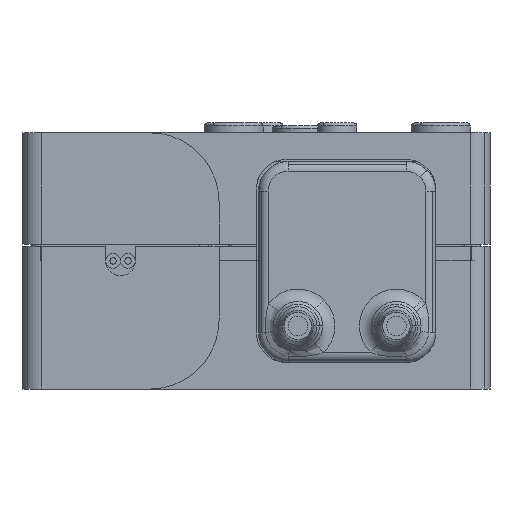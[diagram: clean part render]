
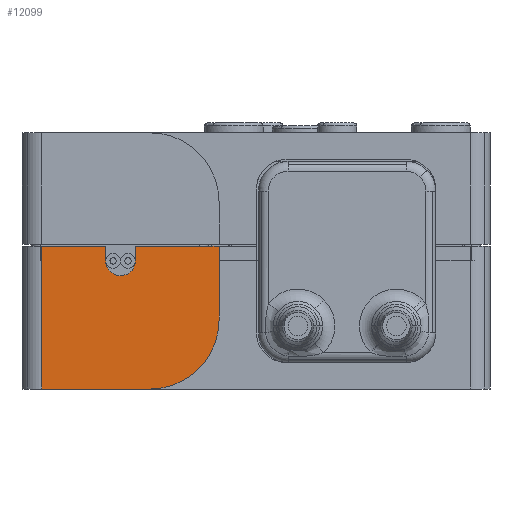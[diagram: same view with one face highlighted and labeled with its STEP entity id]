
A CAD part, front view. The second image highlights one B-rep face of the part: STEP entity #12099.
In plain terms, the highlighted planar face has unit normal (0, -1, 0).
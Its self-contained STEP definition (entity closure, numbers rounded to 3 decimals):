
#25 = DIRECTION ( 'NONE',  ( 0., -1., 0. ) ) ;
#155 = ORIENTED_EDGE ( 'NONE', *, *, #887, .T. ) ;
#484 = EDGE_CURVE ( 'NONE', #16605, #7866, #2389, .T. ) ;
#564 = LINE ( 'NONE', #13488, #8350 ) ;
#722 = ORIENTED_EDGE ( 'NONE', *, *, #11151, .F. ) ;
#887 = EDGE_CURVE ( 'NONE', #9692, #10093, #6363, .T. ) ;
#972 = CARTESIAN_POINT ( 'NONE',  ( -17., -55., 7.25 ) ) ;
#1206 = ORIENTED_EDGE ( 'NONE', *, *, #15548, .F. ) ;
#1638 = CARTESIAN_POINT ( 'NONE',  ( -8.5, -55., 7. ) ) ;
#1711 = CARTESIAN_POINT ( 'NONE',  ( -15.5, -55., 7. ) ) ;
#1785 = AXIS2_PLACEMENT_3D ( 'NONE', #5365, #15685, #14169 ) ;
#1835 = FACE_OUTER_BOUND ( 'NONE', #12713, .T. ) ;
#1878 = DIRECTION ( 'NONE',  ( -0.707, 0., -0.707 ) ) ;
#2247 = LINE ( 'NONE', #972, #13478 ) ;
#2326 = CARTESIAN_POINT ( 'NONE',  ( -17., -55., 13. ) ) ;
#2331 = VECTOR ( 'NONE', #8394, 1000. ) ;
#2389 = LINE ( 'NONE', #7584, #7702 ) ;
#2417 = AXIS2_PLACEMENT_3D ( 'NONE', #12588, #4626, #1878 ) ;
#2448 = EDGE_CURVE ( 'NONE', #3719, #7866, #564, .T. ) ;
#2607 = CARTESIAN_POINT ( 'NONE',  ( -18.5, -55., 13. ) ) ;
#2736 = CARTESIAN_POINT ( 'NONE',  ( -20., -55., 13. ) ) ;
#3341 = LINE ( 'NONE', #16238, #8082 ) ;
#3719 = VERTEX_POINT ( 'NONE', #1638 ) ;
#3761 = CARTESIAN_POINT ( 'NONE',  ( -20., -55., 14.5 ) ) ;
#3851 = DIRECTION ( 'NONE',  ( 1., 0., 0. ) ) ;
#3865 = CIRCLE ( 'NONE', #13339, 7. ) ;
#3921 = VECTOR ( 'NONE', #5351, 1000. ) ;
#4302 = ORIENTED_EDGE ( 'NONE', *, *, #2448, .T. ) ;
#4549 = AXIS2_PLACEMENT_3D ( 'NONE', #2607, #25, #10417 ) ;
#4609 = CARTESIAN_POINT ( 'NONE',  ( -10.55, -55., 2.05 ) ) ;
#4626 = DIRECTION ( 'NONE',  ( 0., -1., 0. ) ) ;
#4858 = CARTESIAN_POINT ( 'NONE',  ( -15.5, -55., 0. ) ) ;
#5066 = CARTESIAN_POINT ( 'NONE',  ( -28.5, -55., 14.5 ) ) ;
#5351 = DIRECTION ( 'NONE',  ( 0., 0., 1. ) ) ;
#5365 = CARTESIAN_POINT ( 'NONE',  ( -15.5, -55., 7. ) ) ;
#6029 = VERTEX_POINT ( 'NONE', #13832 ) ;
#6363 = LINE ( 'NONE', #15674, #3921 ) ;
#6591 = EDGE_CURVE ( 'NONE', #14478, #10287, #3865, .T. ) ;
#6924 = DIRECTION ( 'NONE',  ( 0., 1., 0. ) ) ;
#7037 = DIRECTION ( 'NONE',  ( 0.707, 0., 0.707 ) ) ;
#7374 = DIRECTION ( 'NONE',  ( 0., 0., 1. ) ) ;
#7391 = VERTEX_POINT ( 'NONE', #10722 ) ;
#7584 = CARTESIAN_POINT ( 'NONE',  ( -28.5, -55., 14.5 ) ) ;
#7702 = VECTOR ( 'NONE', #3851, 1000. ) ;
#7866 = VERTEX_POINT ( 'NONE', #16512 ) ;
#8082 = VECTOR ( 'NONE', #8532, 1000. ) ;
#8310 = LINE ( 'NONE', #8475, #2331 ) ;
#8350 = VECTOR ( 'NONE', #7374, 1000. ) ;
#8394 = DIRECTION ( 'NONE',  ( -1., 0., 0. ) ) ;
#8396 = DIRECTION ( 'NONE',  ( 0., -1., 0. ) ) ;
#8475 = CARTESIAN_POINT ( 'NONE',  ( -8.5, -55., 0. ) ) ;
#8532 = DIRECTION ( 'NONE',  ( 0., 0., 1. ) ) ;
#8605 = ORIENTED_EDGE ( 'NONE', *, *, #11072, .T. ) ;
#8689 = CARTESIAN_POINT ( 'NONE',  ( -26.5, -55., 14.5 ) ) ;
#9217 = CIRCLE ( 'NONE', #2417, 1.5 ) ;
#9543 = EDGE_CURVE ( 'NONE', #14233, #10093, #15091, .T. ) ;
#9573 = CARTESIAN_POINT ( 'NONE',  ( -28.5, -55., 0. ) ) ;
#9692 = VERTEX_POINT ( 'NONE', #2736 ) ;
#10093 = VERTEX_POINT ( 'NONE', #3761 ) ;
#10287 = VERTEX_POINT ( 'NONE', #4858 ) ;
#10363 = ORIENTED_EDGE ( 'NONE', *, *, #10610, .F. ) ;
#10417 = DIRECTION ( 'NONE',  ( -0.707, 0., -0.707 ) ) ;
#10434 = EDGE_CURVE ( 'NONE', #3719, #14478, #12100, .T. ) ;
#10504 = CIRCLE ( 'NONE', #4549, 1.5 ) ;
#10610 = EDGE_CURVE ( 'NONE', #10287, #7391, #8310, .T. ) ;
#10722 = CARTESIAN_POINT ( 'NONE',  ( -26.5, -55., 0. ) ) ;
#11072 = EDGE_CURVE ( 'NONE', #16605, #13893, #2247, .T. ) ;
#11118 = ORIENTED_EDGE ( 'NONE', *, *, #484, .F. ) ;
#11151 = EDGE_CURVE ( 'NONE', #9692, #6029, #10504, .T. ) ;
#11460 = ORIENTED_EDGE ( 'NONE', *, *, #6591, .F. ) ;
#11536 = ORIENTED_EDGE ( 'NONE', *, *, #10434, .F. ) ;
#12099 = ADVANCED_FACE ( 'NONE', ( #1835 ), #16103, .T. ) ;
#12100 = CIRCLE ( 'NONE', #1785, 7. ) ;
#12588 = CARTESIAN_POINT ( 'NONE',  ( -18.5, -55., 13. ) ) ;
#12713 = EDGE_LOOP ( 'NONE', ( #13554, #10363, #11460, #11536, #4302, #11118, #8605, #1206, #722, #155, #16806 ) ) ;
#13339 = AXIS2_PLACEMENT_3D ( 'NONE', #1711, #6924, #15654 ) ;
#13478 = VECTOR ( 'NONE', #15424, 1000. ) ;
#13488 = CARTESIAN_POINT ( 'NONE',  ( -8.5, -55., 0. ) ) ;
#13554 = ORIENTED_EDGE ( 'NONE', *, *, #14098, .F. ) ;
#13832 = CARTESIAN_POINT ( 'NONE',  ( -19.561, -55., 11.939 ) ) ;
#13893 = VERTEX_POINT ( 'NONE', #2326 ) ;
#14098 = EDGE_CURVE ( 'NONE', #7391, #14233, #3341, .T. ) ;
#14169 = DIRECTION ( 'NONE',  ( 0.707, 0., -0.707 ) ) ;
#14233 = VERTEX_POINT ( 'NONE', #8689 ) ;
#14478 = VERTEX_POINT ( 'NONE', #4609 ) ;
#14488 = CARTESIAN_POINT ( 'NONE',  ( -17., -55., 14.5 ) ) ;
#14776 = VECTOR ( 'NONE', #16094, 1000. ) ;
#15091 = LINE ( 'NONE', #5066, #14776 ) ;
#15271 = AXIS2_PLACEMENT_3D ( 'NONE', #9573, #8396, #7037 ) ;
#15424 = DIRECTION ( 'NONE',  ( 0., 0., -1. ) ) ;
#15548 = EDGE_CURVE ( 'NONE', #6029, #13893, #9217, .T. ) ;
#15654 = DIRECTION ( 'NONE',  ( 0.707, 0., -0.707 ) ) ;
#15674 = CARTESIAN_POINT ( 'NONE',  ( -20., -55., 7.25 ) ) ;
#15685 = DIRECTION ( 'NONE',  ( 0., 1., 0. ) ) ;
#16094 = DIRECTION ( 'NONE',  ( 1., 0., 0. ) ) ;
#16103 = PLANE ( 'NONE',  #15271 ) ;
#16238 = CARTESIAN_POINT ( 'NONE',  ( -26.5, -55., 0. ) ) ;
#16512 = CARTESIAN_POINT ( 'NONE',  ( -8.5, -55., 14.5 ) ) ;
#16605 = VERTEX_POINT ( 'NONE', #14488 ) ;
#16806 = ORIENTED_EDGE ( 'NONE', *, *, #9543, .F. ) ;
